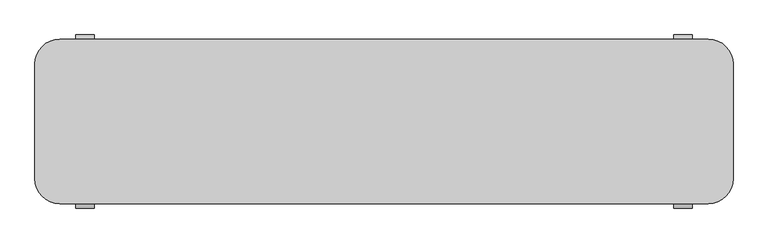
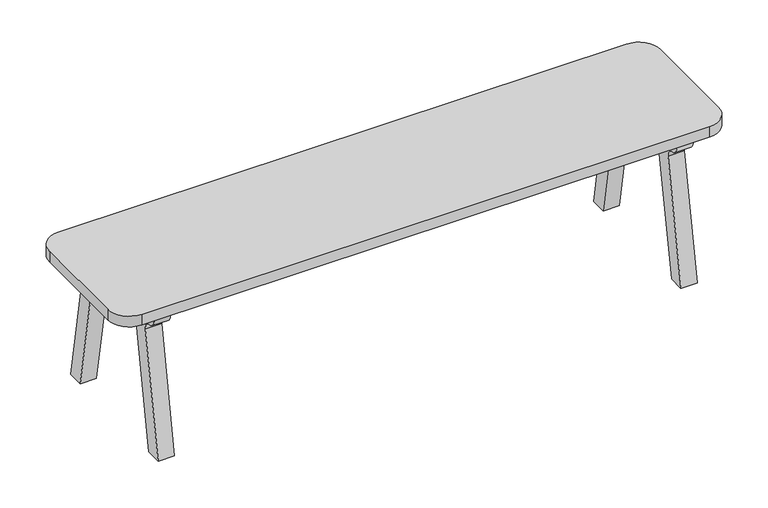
"""IFC4 building model written with IfcOpenShell, lengths in millimetres: furniture geometry, Furniture-Chair-LyndonDesign-Agent_AGE_21 : Furniture-Chair-LyndonDesign-Agent_AGE_21."""

from ifc_helpers import new_model, si_unit, point, frame, frame_2d, origin, place, context, project, spatial, polyline, circle_curve, trimmed, segment, composite_curve, outline, extrude, source, transform, mapped, element, save


def furniture_98158460(model_context):
    return source(origin(), model_context, "Body", "SweptSolid", [
        extrude(outline(composite_curve([segment(trimmed(circle_curve(frame_2d((165.6735065, 401.5998686)), 25.3572907), [point((190.0, 408.7562579))], [point((168.1510827, 376.3639059))], False, "CARTESIAN"), True, "CONTINUOUS"), segment(trimmed(circle_curve(frame_2d((170.282248, 354.6563968)), 21.8118734), [point((168.1510827, 376.3639059))], [point((148.6060058, 352.2277461))], True, "CARTESIAN"), True, "CONTINUOUS"), segment(polyline([(148.6060058, 352.2277461), (210.7132608, 0.0), (165.0190633, 0.0), (101.7606555, 358.7562579)]), True, "CONTINUOUS"), segment(trimmed(circle_curve(frame_2d((85.0189237, 355.8042389)), 17.0), [point((101.7606555, 358.7562579))], [point((85.0189237, 372.8042389))], True, "CARTESIAN"), True, "CONTINUOUS"), segment(polyline([(85.0189237, 372.8042389), (-85.0189237, 372.8042389)]), True, "CONTINUOUS"), segment(trimmed(circle_curve(frame_2d((-85.0189237, 355.8042389)), 17.0), [point((-85.0189237, 372.8042389))], [point((-101.7606555, 358.7562579))], True, "CARTESIAN"), True, "CONTINUOUS"), segment(polyline([(-101.7606555, 358.7562579), (-165.0190633, 0.0), (-210.7132608, 0.0), (-148.6060058, 352.2277461)]), True, "CONTINUOUS"), segment(trimmed(circle_curve(frame_2d((-170.282248, 354.6563968)), 21.8118734), [point((-148.6060058, 352.2277461))], [point((-168.1510827, 376.3639059))], True, "CARTESIAN"), True, "CONTINUOUS"), segment(trimmed(circle_curve(frame_2d((-165.6735065, 401.5998686)), 25.3572907), [point((-168.1510827, 376.3639059))], [point((-190.0, 408.7562579))], False, "CARTESIAN"), True, "CONTINUOUS"), segment(polyline([(-190.0, 408.7562579), (190.0, 408.7562579)]), True, "CONTINUOUS")], self_intersect=False)), frame((-749.9999833, 0.0, 0.0), z_axis=(1.0, 0.0, 0.0), x_axis=(0.0, 1.0, 0.0)), (0.0, 0.0, 1.0), 45.0),
        extrude(outline(composite_curve([segment(trimmed(circle_curve(frame_2d((165.6735065, 401.5998686)), 25.3572907), [point((190.0, 408.7562579))], [point((168.1510827, 376.3639059))], False, "CARTESIAN"), True, "CONTINUOUS"), segment(trimmed(circle_curve(frame_2d((170.282248, 354.6563968)), 21.8118734), [point((168.1510827, 376.3639059))], [point((148.6060058, 352.2277461))], True, "CARTESIAN"), True, "CONTINUOUS"), segment(polyline([(148.6060058, 352.2277461), (210.7132608, 0.0), (165.0190633, 0.0), (101.7606555, 358.7562579)]), True, "CONTINUOUS"), segment(trimmed(circle_curve(frame_2d((85.0189237, 355.8042389)), 17.0), [point((101.7606555, 358.7562579))], [point((85.0189237, 372.8042389))], True, "CARTESIAN"), True, "CONTINUOUS"), segment(polyline([(85.0189237, 372.8042389), (-85.0189237, 372.8042389)]), True, "CONTINUOUS"), segment(trimmed(circle_curve(frame_2d((-85.0189237, 355.8042389)), 17.0), [point((-85.0189237, 372.8042389))], [point((-101.7606555, 358.7562579))], True, "CARTESIAN"), True, "CONTINUOUS"), segment(polyline([(-101.7606555, 358.7562579), (-165.0190633, 0.0), (-210.7132608, 0.0), (-148.6060058, 352.2277461)]), True, "CONTINUOUS"), segment(trimmed(circle_curve(frame_2d((-170.282248, 354.6563968)), 21.8118734), [point((-148.6060058, 352.2277461))], [point((-168.1510827, 376.3639059))], True, "CARTESIAN"), True, "CONTINUOUS"), segment(trimmed(circle_curve(frame_2d((-165.6735065, 401.5998686)), 25.3572907), [point((-168.1510827, 376.3639059))], [point((-190.0, 408.7562579))], False, "CARTESIAN"), True, "CONTINUOUS"), segment(polyline([(-190.0, 408.7562579), (190.0, 408.7562579)]), True, "CONTINUOUS")], self_intersect=False)), frame((704.9999833, 0.0, 0.0), z_axis=(1.0, 0.0, 0.0), x_axis=(0.0, 1.0, 0.0)), (0.0, 0.0, 1.0), 45.0),
        extrude(outline(polyline([(-133.353636, 373.5340284), (-127.1430065, 408.7562579), (-102.7727679, 408.7562579), (-109.718695, 369.3639476), (-133.353636, 373.5340284)])), frame((-704.9999833, 0.0, 0.0), z_axis=(1.0, 0.0, 0.0), x_axis=(0.0, 1.0, 0.0)), (0.0, 0.0, 1.0), 1409.9999666),
        extrude(outline(polyline([(133.353636, 373.5340284), (109.718695, 369.3639476), (102.7727679, 408.7562579), (127.1430065, 408.7562579), (133.353636, 373.5340284)])), frame((-704.9999833, 0.0, 0.0), z_axis=(1.0, 0.0, 0.0), x_axis=(0.0, 1.0, 0.0)), (0.0, 0.0, 1.0), 1409.9999666),
        extrude(outline(composite_curve([segment(polyline([(-790.0, 200.0), (790.0, 200.0)]), True, "CONTINUOUS"), segment(trimmed(circle_curve(frame_2d((790.0, 140.0)), 60.0), [point((790.0, 200.0))], [point((850.0, 140.0))], False, "CARTESIAN"), True, "CONTINUOUS"), segment(polyline([(850.0, 140.0), (850.0, -140.0)]), True, "CONTINUOUS"), segment(trimmed(circle_curve(frame_2d((790.0, -140.0)), 60.0), [point((850.0, -140.0))], [point((790.0, -200.0))], False, "CARTESIAN"), True, "CONTINUOUS"), segment(polyline([(790.0, -200.0), (-790.0, -200.0)]), True, "CONTINUOUS"), segment(trimmed(circle_curve(frame_2d((-790.0, -140.0)), 60.0), [point((-790.0, -200.0))], [point((-850.0, -140.0))], False, "CARTESIAN"), True, "CONTINUOUS"), segment(polyline([(-850.0, -140.0), (-850.0, 140.0)]), True, "CONTINUOUS"), segment(trimmed(circle_curve(frame_2d((-790.0, 140.0)), 60.0), [point((-850.0, 140.0))], [point((-790.0, 200.0))], False, "CARTESIAN"), True, "CONTINUOUS")], self_intersect=False)), frame((0.0, 0.0, 408.7562579), z_axis=(0.0, 0.0, 1.0), x_axis=(1.0, 0.0, 0.0)), (0.0, 0.0, 1.0), 31.2437421),
    ])


if __name__ == "__main__":
    model = new_model("IFC4")
    model_context = context("Model", 3, world=origin())
    ifc_project = project(units=[si_unit("LENGTHUNIT", "METRE", prefix="MILLI")], contexts=[model_context])
    site = spatial("IfcSite", under=ifc_project)
    building = spatial("IfcBuilding", under=site)
    placement = place(None, origin())
    furniture_shape = furniture_98158460(model_context)
    element("IfcFurniture", 1, ObjectType="Furniture-Chair-LyndonDesign-Agent_AGE_21 : Furniture-Chair-LyndonDesign-Agent_AGE_21", at=placement, inside=building, context=model_context, shape_type="MappedRepresentation", body=[
        mapped(furniture_shape, transform((0.0, 0.0, 0.0), x_axis=(1.0, 0.0, 0.0), y_axis=(0.0, 1.0, 0.0), z_axis=(0.0, 0.0, 1.0))),
    ])
    save(model, "model.ifc")
